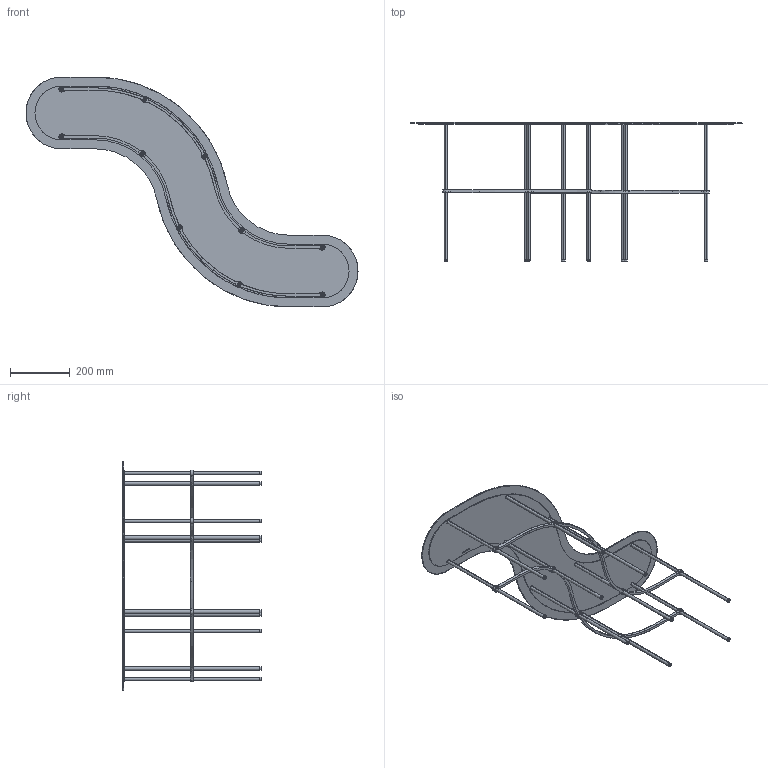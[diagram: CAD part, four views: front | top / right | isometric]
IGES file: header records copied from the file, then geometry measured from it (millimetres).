
Start section: SolidWorks IGES file using analytic representation for surfaces
Global section: file name: \\utenti\Dati Utenti\Tecnico\DC\2D - 3D per sito\3D\DeCastelli-3D-Scribble Tilde.igs; native system: SolidWorks 2022; preprocessor: SolidWorks 2022; author: Simonep; date: 240729.120828; units: millimetre
Bounding box: 1108.89 x 463.05 x 768 mm (x, y, z)
Surface area: 1134461 mm2 (no closed solid volume)
Topology: 0 solids, 0 shells, 258 faces, 2889 edges, 2869 vertices
Faces by surface type: revolution 136, bspline 122
